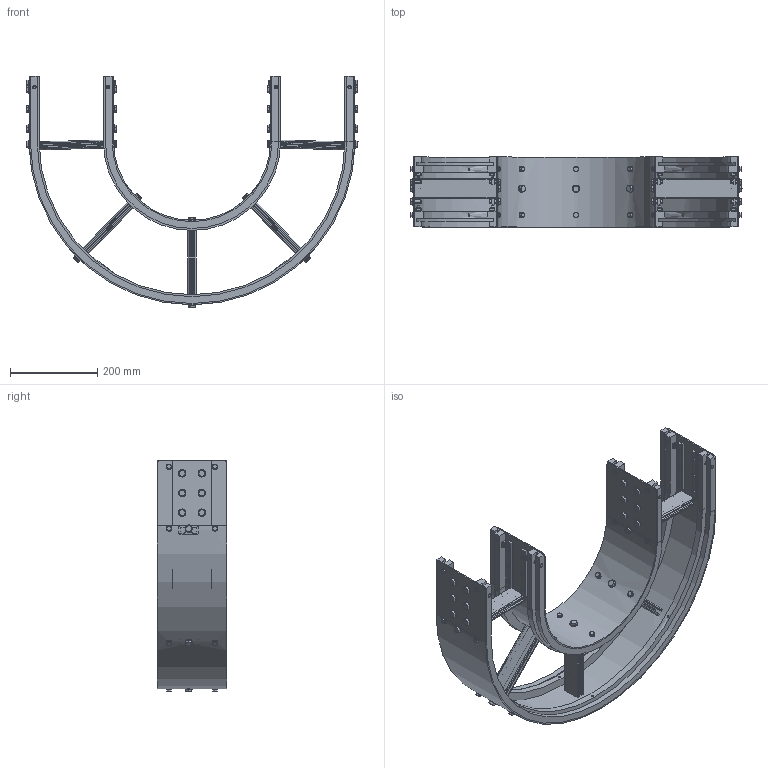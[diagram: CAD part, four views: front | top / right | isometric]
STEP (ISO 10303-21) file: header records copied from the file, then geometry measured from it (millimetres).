
FILE_DESCRIPTION (( 'STEP AP203' ), '1' );
FILE_NAME ('3000.152.418.STEP', '2018-03-09T16:26:06', ( '' ), ( '' ), 'SwSTEP 2.0', 'SolidWorks 2016', '' );
FILE_SCHEMA (( 'CONFIG_CONTROL_DESIGN' ));
Length unit declared in the file: millimetre
Products named in the file (13): 3000.152.013; 084.302.060; 3000.152.418; 3000.152.014; RONDELLE UNI 6592 INOX_8.4x18 UNI 6592 INOX; 084.101.004.XXXX_187<A macchina>; RONDELLE UNI 6592 INOX_6.4x12.5 UNI 6592 INOX; VITI TE UNI 5739 INOX_M8x20 UNI 5739 INOX; 3000.152.011_curva; 3000.152.012; 084.301.000 VITI ALUSIC_084.301.036; VITI TE UNI 5739 INOX_M6x20 UNI 5739 INOX; 084.302.000 DADI ALUSIC 13x13-1_084.302.002
Assembly tree (157 placements, depth 2):
  3000.152.418
    3000.152.013  x2
    3000.152.014  x2
    3000.152.011_curva
    3000.152.012
    084.101.004.XXXX_187<A macchina>  x5
    RONDELLE UNI 6592 INOX_8.4x18 UNI 6592 INOX  x34
    VITI TE UNI 5739 INOX_M8x20 UNI 5739 INOX  x34
    084.302.060  x6
    RONDELLE UNI 6592 INOX_6.4x12.5 UNI 6592 INOX  x28
    VITI TE UNI 5739 INOX_M6x20 UNI 5739 INOX  x28
    084.301.000 VITI ALUSIC_084.301.036  x8
    084.302.000 DADI ALUSIC 13x13-1_084.302.002  x8
Bounding box: 758.98 x 160 x 529.43 mm (x, y, z)
Volume: 4146743.6 mm3; surface area: 1719323.5 mm2
Topology: 157 solids, 157 shells, 2440 faces, 5544 edges, 3504 vertices
Faces by surface type: plane 1102, cylinder 762, cone 528, torus 48
Entity records: 23475 total; most frequent: CARTESIAN_POINT 7602, DIRECTION 2272, ORIENTED_EDGE 2068, EDGE_CURVE 1034, AXIS2_PLACEMENT_3D 882, VERTEX_POINT 672, EDGE_LOOP 584, VECTOR 508
